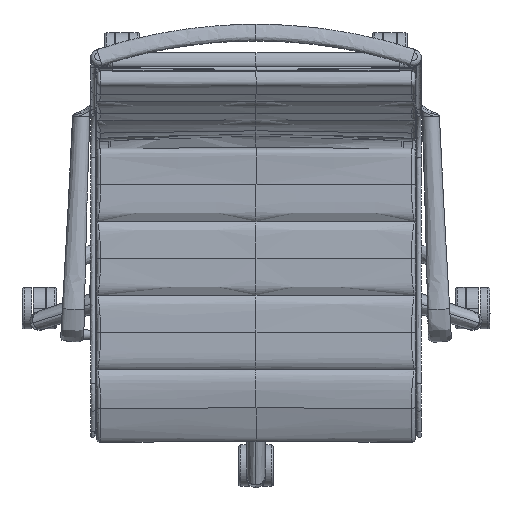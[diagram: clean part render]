
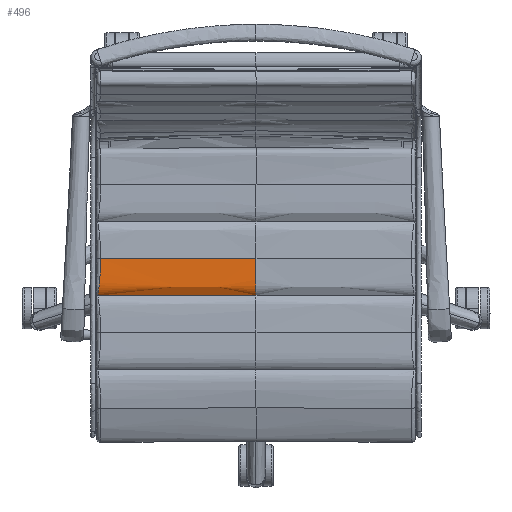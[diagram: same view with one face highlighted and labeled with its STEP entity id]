
A CAD part, top view. The second image highlights one B-rep face of the part: STEP entity #496.
In plain terms, the highlighted free-form (B-spline) face has degree [3, 3] with [6, 6] control points.
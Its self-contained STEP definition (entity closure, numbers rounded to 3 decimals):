
#496=ADVANCED_FACE('',(#1293),#11932,.T.);
#1293=FACE_OUTER_BOUND('',#2090,.T.);
#2090=EDGE_LOOP('',(#3543,#3544,#3545,#3546));
#3543=ORIENTED_EDGE('',*,*,#6953,.F.);
#3544=ORIENTED_EDGE('',*,*,#6952,.F.);
#3545=ORIENTED_EDGE('',*,*,#6996,.F.);
#3546=ORIENTED_EDGE('',*,*,#7000,.F.);
#6952=EDGE_CURVE('',#10806,#10807,#8872,.T.);
#6953=EDGE_CURVE('',#10807,#10834,#8873,.T.);
#6996=EDGE_CURVE('',#10842,#10806,#8916,.T.);
#7000=EDGE_CURVE('',#10834,#10842,#8920,.T.);
#8872=B_SPLINE_CURVE_WITH_KNOTS('',3,(#34313,#34314,#34315,#34316,#34317,
#34318),.UNSPECIFIED.,.F.,.F.,(4,1,1,4),(-55.642,-37.095,
-18.547,0.),.UNSPECIFIED.);
#8873=B_SPLINE_CURVE_WITH_KNOTS('',3,(#34319,#34320,#34321,#34322,#34323),
 .UNSPECIFIED.,.F.,.F.,(4,1,4),(-41.954,-20.956,-0.327),
 .UNSPECIFIED.);
#8916=B_SPLINE_CURVE_WITH_KNOTS('',3,(#34736,#34737,#34738,#34739,#34740,
#34741,#34742),.UNSPECIFIED.,.F.,.F.,(4,1,1,1,4),(1.09,10.734,
21.14,31.547,41.954),.UNSPECIFIED.);
#8920=B_SPLINE_CURVE_WITH_KNOTS('',3,(#34776,#34777,#34778,#34779,#34780,
#34781,#34782,#34783,#34784,#34785,#34786,#34787,#34788),.UNSPECIFIED.,
 .F.,.F.,(4,1,1,1,1,1,1,1,1,1,4),(0.,2.457,
4.914,7.245,9.576,14.615,19.653,
26.926,34.199,43.778,53.358),
 .UNSPECIFIED.);
#10806=VERTEX_POINT('',#34214);
#10807=VERTEX_POINT('',#34215);
#10834=VERTEX_POINT('',#34242);
#10842=VERTEX_POINT('',#34250);
#11932=B_SPLINE_SURFACE_WITH_KNOTS('',3,3,((#31752,#31753,#31754,#31755,
#31756,#31757),(#31758,#31759,#31760,#31761,#31762,#31763),(#31764,#31765,
#31766,#31767,#31768,#31769),(#31770,#31771,#31772,#31773,#31774,#31775),
(#31776,#31777,#31778,#31779,#31780,#31781),(#31782,#31783,#31784,#31785,
#31786,#31787)),.UNSPECIFIED.,.F.,.F.,.F.,(4,1,1,4),(4,1,1,4),(0.327,
21.14,31.547,41.954),(0.,18.547,
37.095,55.642),.UNSPECIFIED.);
#31752=CARTESIAN_POINT('',(-229.199,-66.269,506.084));
#31753=CARTESIAN_POINT('',(-229.199,-62.793,509.63));
#31754=CARTESIAN_POINT('',(-229.199,-54.126,513.202));
#31755=CARTESIAN_POINT('',(-229.199,-39.157,512.727));
#31756=CARTESIAN_POINT('',(-229.199,-21.423,512.164));
#31757=CARTESIAN_POINT('',(-229.199,-12.557,511.882));
#31758=CARTESIAN_POINT('',(-191.01,-66.085,506.078));
#31759=CARTESIAN_POINT('',(-191.01,-62.611,509.624));
#31760=CARTESIAN_POINT('',(-191.01,-53.947,513.196));
#31761=CARTESIAN_POINT('',(-191.011,-38.983,512.721));
#31762=CARTESIAN_POINT('',(-191.012,-21.256,512.158));
#31763=CARTESIAN_POINT('',(-191.012,-12.393,511.877));
#31764=CARTESIAN_POINT('',(-133.714,-65.879,506.071));
#31765=CARTESIAN_POINT('',(-133.714,-62.406,509.618));
#31766=CARTESIAN_POINT('',(-133.715,-53.746,513.19));
#31767=CARTESIAN_POINT('',(-133.716,-38.788,512.715));
#31768=CARTESIAN_POINT('',(-133.717,-21.068,512.152));
#31769=CARTESIAN_POINT('',(-133.718,-12.209,511.871));
#31770=CARTESIAN_POINT('',(-57.31,-65.742,506.067));
#31771=CARTESIAN_POINT('',(-57.31,-62.27,509.613));
#31772=CARTESIAN_POINT('',(-57.31,-53.611,513.186));
#31773=CARTESIAN_POINT('',(-57.311,-38.658,512.711));
#31774=CARTESIAN_POINT('',(-57.312,-20.943,512.148));
#31775=CARTESIAN_POINT('',(-57.312,-12.086,511.867));
#31776=CARTESIAN_POINT('',(-19.103,-65.719,506.066));
#31777=CARTESIAN_POINT('',(-19.103,-62.247,509.613));
#31778=CARTESIAN_POINT('',(-19.103,-53.589,513.185));
#31779=CARTESIAN_POINT('',(-19.103,-38.636,512.71));
#31780=CARTESIAN_POINT('',(-19.103,-20.922,512.148));
#31781=CARTESIAN_POINT('',(-19.103,-12.065,511.867));
#31782=CARTESIAN_POINT('',(0.,-65.719,506.066));
#31783=CARTESIAN_POINT('',(0.,-62.247,509.613));
#31784=CARTESIAN_POINT('',(0.,-53.589,513.185));
#31785=CARTESIAN_POINT('',(0.,-38.636,512.71));
#31786=CARTESIAN_POINT('',(0.,-20.922,512.148));
#31787=CARTESIAN_POINT('',(0.,-12.065,511.867));
#34214=CARTESIAN_POINT('',(0.,-12.065,511.867));
#34215=CARTESIAN_POINT('',(0.,-65.719,506.066));
#34242=CARTESIAN_POINT('',(-229.199,-66.269,506.084));
#34250=CARTESIAN_POINT('',(-225.001,-12.539,511.882));
#34313=CARTESIAN_POINT('',(0.,-12.065,511.867));
#34314=CARTESIAN_POINT('',(0.,-20.922,512.148));
#34315=CARTESIAN_POINT('',(0.,-38.636,512.71));
#34316=CARTESIAN_POINT('',(0.,-53.589,513.185));
#34317=CARTESIAN_POINT('',(0.,-62.247,509.613));
#34318=CARTESIAN_POINT('',(0.,-65.719,506.066));
#34319=CARTESIAN_POINT('',(0.,-65.719,506.066));
#34320=CARTESIAN_POINT('',(-38.545,-65.719,506.066));
#34321=CARTESIAN_POINT('',(-114.955,-65.811,506.069));
#34322=CARTESIAN_POINT('',(-191.348,-66.087,506.078));
#34323=CARTESIAN_POINT('',(-229.199,-66.269,506.084));
#34736=CARTESIAN_POINT('',(-225.001,-12.539,511.882));
#34737=CARTESIAN_POINT('',(-207.307,-12.464,511.879));
#34738=CARTESIAN_POINT('',(-170.514,-12.328,511.875));
#34739=CARTESIAN_POINT('',(-114.617,-12.178,511.87));
#34740=CARTESIAN_POINT('',(-57.312,-12.086,511.867));
#34741=CARTESIAN_POINT('',(-19.103,-12.065,511.867));
#34742=CARTESIAN_POINT('',(0.,-12.065,511.867));
#34776=CARTESIAN_POINT('',(-229.199,-66.269,506.084));
#34777=CARTESIAN_POINT('',(-229.066,-65.655,506.709));
#34778=CARTESIAN_POINT('',(-228.804,-64.327,507.898));
#34779=CARTESIAN_POINT('',(-228.427,-62.096,509.397));
#34780=CARTESIAN_POINT('',(-228.072,-59.701,510.583));
#34781=CARTESIAN_POINT('',(-227.614,-56.271,511.81));
#34782=CARTESIAN_POINT('',(-227.085,-51.715,512.659));
#34783=CARTESIAN_POINT('',(-226.467,-45.501,512.919));
#34784=CARTESIAN_POINT('',(-225.927,-38.901,512.718));
#34785=CARTESIAN_POINT('',(-225.43,-30.918,512.466));
#34786=CARTESIAN_POINT('',(-225.084,-22.107,512.185));
#34787=CARTESIAN_POINT('',(-225.001,-15.733,511.983));
#34788=CARTESIAN_POINT('',(-225.001,-12.539,511.882));
